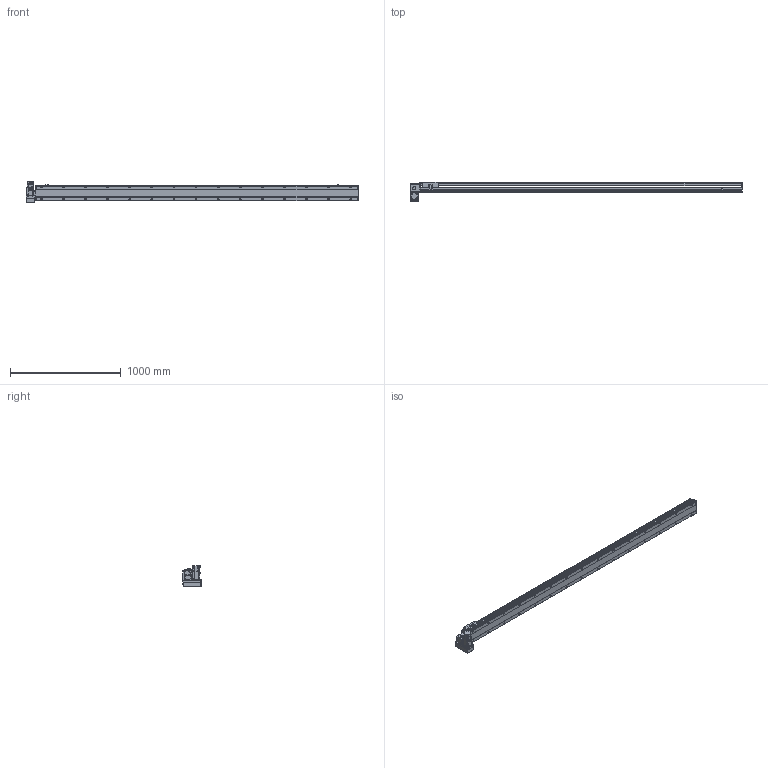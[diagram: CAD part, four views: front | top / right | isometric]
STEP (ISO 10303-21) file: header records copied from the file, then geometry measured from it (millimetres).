
FILE_DESCRIPTION(/* description */ ('STEP AP214'),/* implementation_level */ '2;1');
FILE_NAME(/* name */ 'PBS140S-P40-S2650-LD-T40-C1-N(0)',/* time_stamp */ '2022-06-09T02:29:20+02:00',/* author */ ('License CC BY-ND 4.0'),/* organization */ ('CADENAS'),/* preprocessor_version */ 'ST-DEVELOPER v18.102',/* originating_system */ 'PARTsolutions',/* authorisation */ ' ');
FILE_SCHEMA (('AUTOMOTIVE_DESIGN {1 0 10303 214 3 1 1}'));
Length unit declared in the file: millimetre
Products named in the file (7): PBS140S-P40-S2650-LD-T40-C1-N(0); PBS140S_sensor; PBS140S_plant; PBS140S_sliser; T40-p1; PBS140ST-LD_motors; PBS140S-S2650()_body
Assembly tree (8 placements, depth 2):
  PBS140S-P40-S2650-LD-T40-C1-N(0)
    PBS140S_sensor  x3
    PBS140S_plant
    PBS140S_sliser
    T40-p1
    PBS140ST-LD_motors
    PBS140S-S2650()_body
Bounding box: 3004 x 172.5 x 189.7 mm (x, y, z)
Volume: 14554457.2 mm3; surface area: 2448058.8 mm2
Topology: 8 solids, 8 shells, 1211 faces, 3191 edges, 2087 vertices
Faces by surface type: plane 744, cylinder 401, cone 56, sphere 8, torus 2
Full cylindrical faces by diameter (mm): 3.242 x4, 4 x2, 4.134 x4, 4.4 x8, 4.5 x2, 4.8 x4, 4.917 x38, 5.5 x7, 6 x2, 7 x32, 7.5 x8, 8 x12, 8.5 x4, 10.5 x30, 14 x1, 30 x2, 50 x2
Entity records: 34702 total; most frequent: CARTESIAN_POINT 6600, DIRECTION 5838, ORIENTED_EDGE 5482, EDGE_CURVE 2741, AXIS2_PLACEMENT_3D 2069, VERTEX_POINT 1921, LINE 1700, VECTOR 1700
